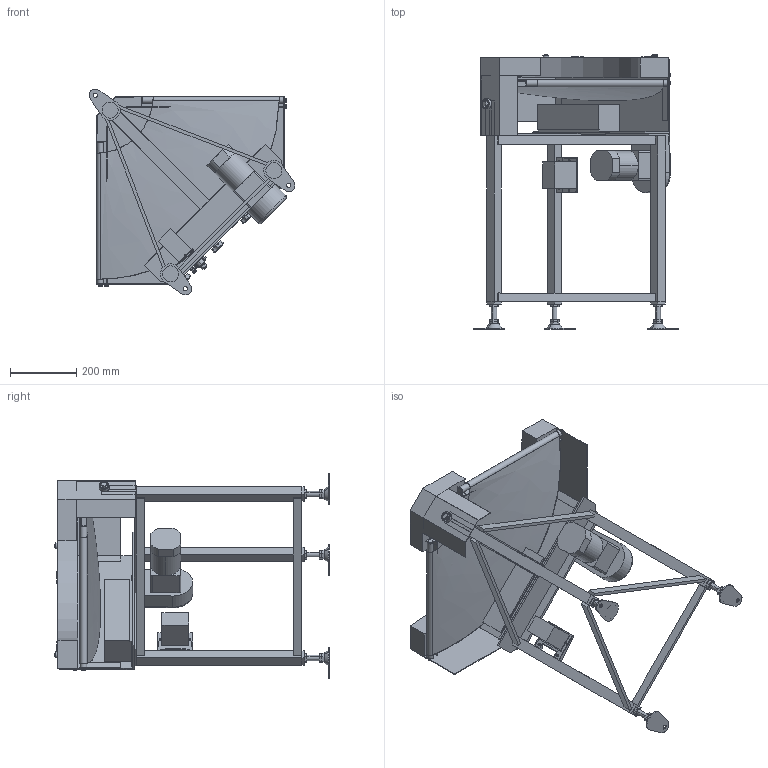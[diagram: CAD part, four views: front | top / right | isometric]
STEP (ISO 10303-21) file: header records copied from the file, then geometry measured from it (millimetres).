
FILE_DESCRIPTION( (''), '2;1');
FILE_NAME ('GBC-UD-309-300-90°-R-K-60.stp','2025-02-03T09:00:05',(''),(''),'spGate 20.6.2 (****-****-****-****)','','');
FILE_SCHEMA (('AUTOMOTIVE_DESIGN'));
Length unit declared in the file: millimetre
Products named in the file (59): NewModel; TEMP_X_T-prt0; TEMP_X_T-prt1; TEMP_X_T-prt2; TEMP_X_T-prt3; TEMP_X_T-prt4; TEMP_X_T-prt5; TEMP_X_T-prt6; TEMP_X_T-prt7; TEMP_X_T-prt8; TEMP_X_T-prt9; TEMP_X_T-prt10; TEMP_X_T-prt11; TEMP_X_T-prt12; TEMP_X_T-prt13; TEMP_X_T-prt14; TEMP_X_T-prt15; TEMP_X_T-prt16; TEMP_X_T-prt17; TEMP_X_T-prt18; TEMP_X_T-prt19; TEMP_X_T-prt20; TEMP_X_T-prt21; TEMP_X_T-prt22; TEMP_X_T-prt23; TEMP_X_T-prt24; TEMP_X_T-prt25; TEMP_X_T-prt26; TEMP_X_T-prt27; TEMP_X_T-prt28; TEMP_X_T-prt29; TEMP_X_T-prt30; TEMP_X_T-prt31; TEMP_X_T-prt32; TEMP_X_T-prt33; TEMP_X_T-prt34; TEMP_X_T-prt35; TEMP_X_T-prt36; TEMP_X_T-prt37; TEMP_X_T-prt38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
Assembly tree (58 placements, depth 2):
  NewModel
    TEMP_X_T-prt0
    TEMP_X_T-prt1
    TEMP_X_T-prt2
    TEMP_X_T-prt3
    TEMP_X_T-prt4
    TEMP_X_T-prt5
    TEMP_X_T-prt6
    TEMP_X_T-prt7
    TEMP_X_T-prt8
    TEMP_X_T-prt9
    TEMP_X_T-prt10
    TEMP_X_T-prt11
    TEMP_X_T-prt12
    TEMP_X_T-prt13
    TEMP_X_T-prt14
    TEMP_X_T-prt15
    TEMP_X_T-prt16
    TEMP_X_T-prt17
    TEMP_X_T-prt18
    TEMP_X_T-prt19
    TEMP_X_T-prt20
    TEMP_X_T-prt21
    TEMP_X_T-prt22
    TEMP_X_T-prt23
    TEMP_X_T-prt24
    TEMP_X_T-prt25
    TEMP_X_T-prt26
    TEMP_X_T-prt27
    TEMP_X_T-prt28
    TEMP_X_T-prt29
    TEMP_X_T-prt30
    TEMP_X_T-prt31
    TEMP_X_T-prt32
    TEMP_X_T-prt33
    TEMP_X_T-prt34
    TEMP_X_T-prt35
    TEMP_X_T-prt36
    TEMP_X_T-prt37
    TEMP_X_T-prt38
    TEMP_X_T-prt39
    TEMP_X_T-prt40
    TEMP_X_T-prt41
    TEMP_X_T-prt42
    TEMP_X_T-prt43
    TEMP_X_T-prt44
    TEMP_X_T-prt45
    TEMP_X_T-prt46
    TEMP_X_T-prt47
    TEMP_X_T-prt48
    TEMP_X_T-prt49
    TEMP_X_T-prt50
    TEMP_X_T-prt51
    TEMP_X_T-prt52
    TEMP_X_T-prt53
    TEMP_X_T-prt54
    TEMP_X_T-prt55
    TEMP_X_T-prt56
    TEMP_X_T-prt57
Bounding box: 620.53 x 827.92 x 620.53 mm (x, y, z)
Volume: 16737673.5 mm3; surface area: 3153705.8 mm2
Topology: 58 solids, 58 shells, 1147 faces, 2636 edges, 1676 vertices
Faces by surface type: plane 670, cylinder 292, bspline 181, sphere 4
Entity records: 60559 total; most frequent: CARTESIAN_POINT 12207, ORIENTED_EDGE 5256, DIRECTION 5035, COLOUR_RGB 3833, PRESENTATION_STYLE_ASSIGNMENT 3833, STYLED_ITEM 3833, EDGE_CURVE 2628, DRAUGHTING_PRE_DEFINED_CURVE_FONT 2628
